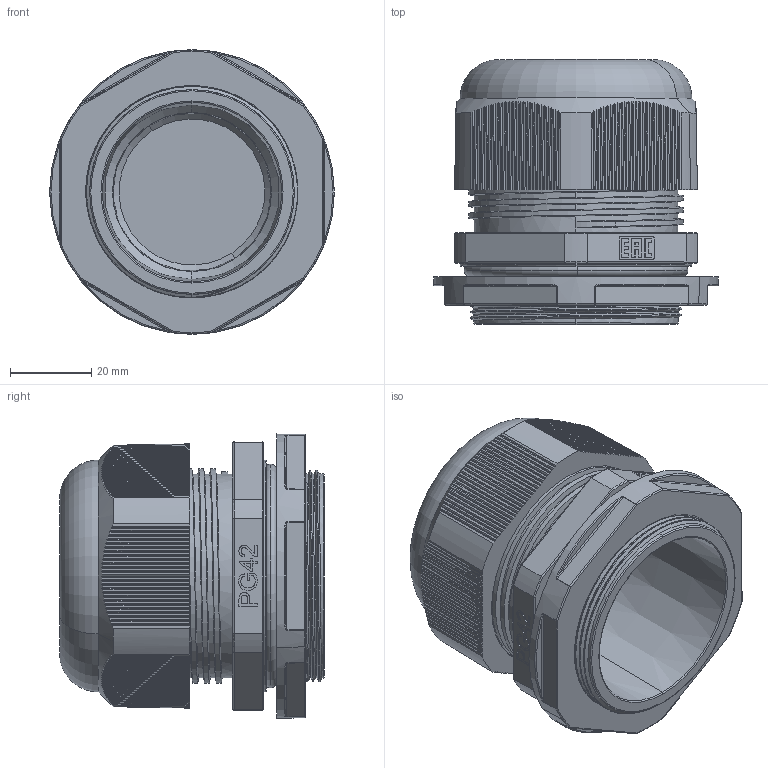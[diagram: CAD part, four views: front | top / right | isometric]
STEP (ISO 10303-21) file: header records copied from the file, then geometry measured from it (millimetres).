
FILE_DESCRIPTION (( 'STEP AP203' ), '1' );
FILE_NAME ('plc-pg-42-00.00.000ÑÁ Ñàëüíèê PG42 #cable gland PG42#.STEP', '2024-02-27T11:27:04', ( '' ), ( '' ), 'SwSTEP 2.0', 'SolidWorks 2021', '' );
FILE_SCHEMA (( 'CONFIG_CONTROL_DESIGN' ));
Length unit declared in the file: millimetre
Products named in the file (6): plc-pg-42-00.00.005 ﾌ瑙趺 (PG42) #sealing ring (PG42)#; plc-pg-42-00.00.000ÑÁ Ñàëüíèê PG42 #cable gland PG42#; plc-pg-42-00.00.003 Ãàéêà ïðèæèìíàÿ (PG42-Ì52) #clamping nut (PG42-M52)#; plc-pg-42-00.00.004 Óïëîòíèòåëü (PG42) #sealant (PG42)#; plc-pg-42-00.00.002 Ãàéêà öàíãîâàÿ (PG42) #collet nut (PG42)#; plc-pg-42-00.00.001 昢膼瘔 (PG42) #base (PG42)#
Assembly tree (5 placements, depth 2):
  plc-pg-42-00.00.000ÑÁ Ñàëüíèê PG42 #cable gland PG42#
    plc-pg-42-00.00.001 昢膼瘔 (PG42) #base (PG42)#
    plc-pg-42-00.00.002 Ãàéêà öàíãîâàÿ (PG42) #collet nut (PG42)#
    plc-pg-42-00.00.003 Ãàéêà ïðèæèìíàÿ (PG42-Ì52) #clamping nut (PG42-M52)#
    plc-pg-42-00.00.004 Óïëîòíèòåëü (PG42) #sealant (PG42)#
    plc-pg-42-00.00.005 ﾌ瑙趺 (PG42) #sealing ring (PG42)#
Bounding box: 70 x 65.09 x 70 mm (x, y, z)
Volume: 82035.4 mm3; surface area: 58811.4 mm2
Topology: 5 solids, 8 shells, 1159 faces, 3204 edges, 2063 vertices
Faces by surface type: plane 711, cone 142, cylinder 125, torus 96, bspline 73, sphere 12
Entity records: 47105 total; most frequent: CARTESIAN_POINT 19243, ORIENTED_EDGE 6384, DIRECTION 4770, EDGE_CURVE 3192, VERTEX_POINT 2063, AXIS2_PLACEMENT_3D 1626, LINE 1518, VECTOR 1518
